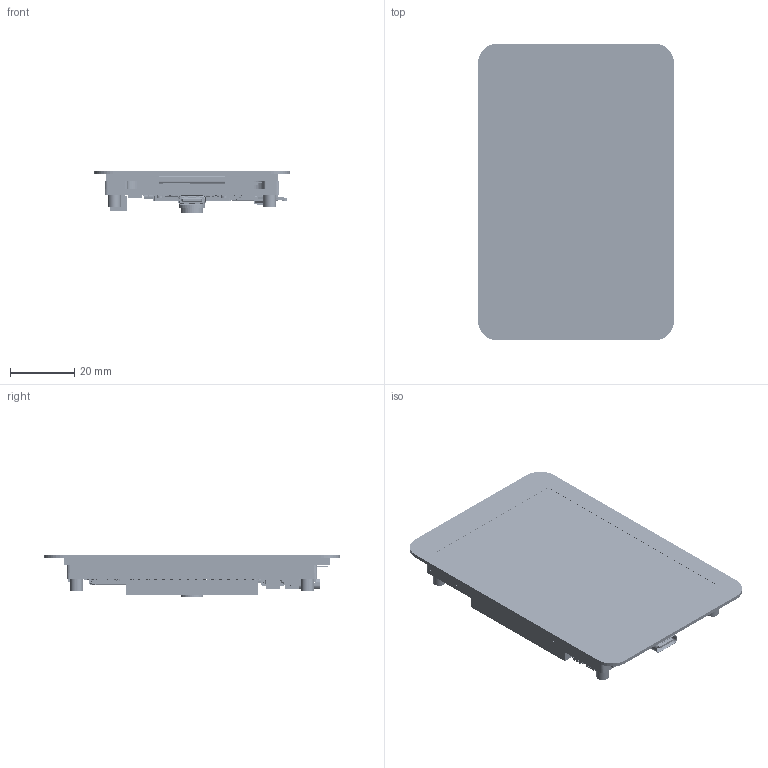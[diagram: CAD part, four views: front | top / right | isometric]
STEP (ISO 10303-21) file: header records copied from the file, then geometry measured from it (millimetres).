
FILE_DESCRIPTION((''),'2;1');
FILE_NAME('ESP32-S3-TOUCH-LCD-3_5B_ASM','2025-03-19T18:28:17',('xiaojisheng'),(''),'CREO PARAMETRIC BY PTC INC, 2021063','CREO PARAMETRIC BY PTC INC, 2021063','');
FILE_SCHEMA(('CONFIG_CONTROL_DESIGN','SHAPE_APPEARANCE_LAYERS_GROUPS'));
Products named in the file (222): JHD0350A007V1; 3_5INCH-320X480-TP_LCD_ASM; SMTSO-M2X4-4ET; BOARD; USER_LIBRARY-RES_0603-0201_1; USER_LIBRARY-RES_0603-0201_2; USER_LIBRARY-RES_0603-0201_3; USER_LIBRARY-RES_0603-0201_4; USER_LIBRARY-RES_0603-0201_ASM; R33_ASM; R53_ASM; R60_ASM; R59_ASM; R58_ASM; R57_ASM; FPC0_5_2H-W__1_2_30034_1; 7_1_2_3_4_5_6_7_8_0037_1; 6_1_2_3_4_5_6_7_8_0028_1; FPC0_5_2H-S-W-40P-30491_AF0_ASM_ASM; FPC0_5_2H-S-W-40P-6314_AF0_ASM__ASM; FPC0_5_2H-S-W-40P_ASM_1_ASM_ASM; FPC0_5_2H-S-W-40P_ASM; L1_ASM; EXTRUDED-99679; 1354235872_ASM; U6_ASM; 2_1_200; _1_1_20001; 3_1_2_A; C_0603-683_AF0_ASM_ASM; C_0603-7177_AF0_ASM_ASM; C_0603_ASM; C71_ASM; C70_ASM; C68_ASM; C67_ASM; USER_LIBRARY-0201_0603M__CAP_1; USER_LIBRARY-0201_0603M__CAP_2; USER_LIBRARY-0201_0603M__CAP_3; USER_LIBRARY-0201_0603M__CAP_ASM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
Assembly tree (400 placements, depth 10):
  ESP32-S3-TOUCH-LCD-3_5B_ASM
    3_5INCH-320X480-TP_LCD_ASM
      JHD0350A007V1
    ESP32-S3-TOUCH-LCD-3_5-PCBA_B_ASM
      SMTSO-M2X4-4ET  x4
      ESP32-S3-TOUCH-LCD-3_5B-PCBA_ASM
        PCB_ASM
          BOARD
          R33_ASM
            USER_LIBRARY-RES_0603-0201_ASM
              USER_LIBRARY-RES_0603-0201_1
              USER_LIBRARY-RES_0603-0201_2
              USER_LIBRARY-RES_0603-0201_3
              USER_LIBRARY-RES_0603-0201_4
          R53_ASM
            USER_LIBRARY-RES_0603-0201_ASM
              USER_LIBRARY-RES_0603-0201_1
              USER_LIBRARY-RES_0603-0201_2
              USER_LIBRARY-RES_0603-0201_3
              USER_LIBRARY-RES_0603-0201_4
          R60_ASM
            USER_LIBRARY-RES_0603-0201_ASM
              USER_LIBRARY-RES_0603-0201_1
              USER_LIBRARY-RES_0603-0201_2
              USER_LIBRARY-RES_0603-0201_3
              USER_LIBRARY-RES_0603-0201_4
          R59_ASM
            USER_LIBRARY-RES_0603-0201_ASM
              USER_LIBRARY-RES_0603-0201_1
              USER_LIBRARY-RES_0603-0201_2
              USER_LIBRARY-RES_0603-0201_3
              USER_LIBRARY-RES_0603-0201_4
          R58_ASM
            USER_LIBRARY-RES_0603-0201_ASM
              USER_LIBRARY-RES_0603-0201_1
              USER_LIBRARY-RES_0603-0201_2
              USER_LIBRARY-RES_0603-0201_3
              USER_LIBRARY-RES_0603-0201_4
          R57_ASM
            USER_LIBRARY-RES_0603-0201_ASM
              USER_LIBRARY-RES_0603-0201_1
              USER_LIBRARY-RES_0603-0201_2
              USER_LIBRARY-RES_0603-0201_3
              USER_LIBRARY-RES_0603-0201_4
          L1_ASM
            FPC0_5_2H-S-W-40P_ASM
              FPC0_5_2H-S-W-40P_ASM_1_ASM_ASM
                FPC0_5_2H-S-W-40P-6314_AF0_ASM__ASM
                  FPC0_5_2H-W__1_2_30034_1  x40
                  FPC0_5_2H-S-W-40P-30491_AF0_ASM_ASM
          U6_ASM
            1354235872_ASM
              EXTRUDED-99679
          C71_ASM
            C_0603_ASM
              C_0603-7177_AF0_ASM_ASM
                C_0603-683_AF0_ASM_ASM
                  2_1_200
                  _1_1_20001
                  3_1_2_A
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Bounding box: 61 x 92.44 x 13.4 mm (x, y, z)
Volume: 30823.6 mm3; surface area: 44834.7 mm2
Topology: 546 solids, 554 shells, 27247 faces, 71419 edges, 46244 vertices
Faces by surface type: plane 17354, extrusion 6206, cylinder 2917, sphere 600, cone 88, bspline 68, torus 14
Entity records: 305521 total; most frequent: CARTESIAN_POINT 64277, ORIENTED_EDGE 37746, DIRECTION 34562, EDGE_CURVE 18886, PRESENTATION_STYLE_ASSIGNMENT 17752, STYLED_ITEM 16993, CURVE_STYLE 16006, VECTOR 15622
